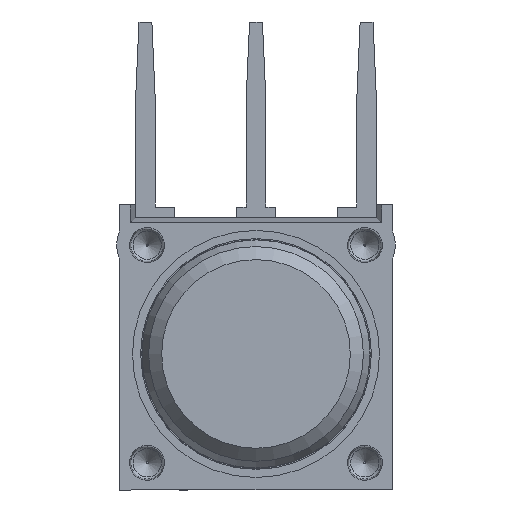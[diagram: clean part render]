
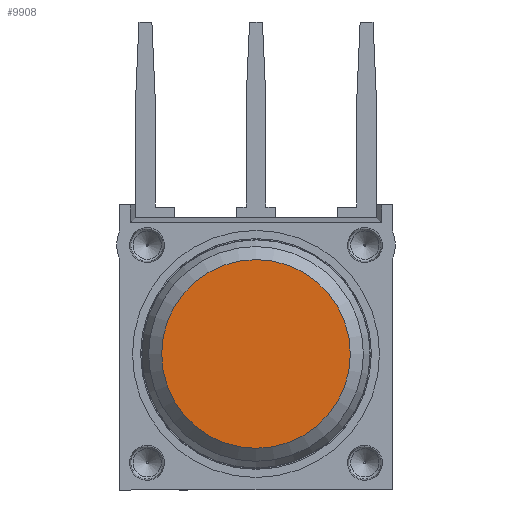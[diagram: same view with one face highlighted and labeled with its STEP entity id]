
A CAD part, left-side view. The second image highlights one B-rep face of the part: STEP entity #9908.
In plain terms, the highlighted planar face has unit normal (-1, 0, 0).
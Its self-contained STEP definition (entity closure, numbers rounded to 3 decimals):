
#4324=ORIENTED_EDGE('',*,*,#6034,.T.);
#6034=EDGE_CURVE('',#7090,#7090,#7551,.T.);
#7090=VERTEX_POINT('',#17411);
#7551=CIRCLE('',#11279,4.334);
#8216=EDGE_LOOP('',(#4324));
#8939=FACE_BOUND('',#8216,.T.);
#9375=PLANE('',#11280);
#9908=ADVANCED_FACE('',(#8939),#9375,.T.);
#11279=AXIS2_PLACEMENT_3D('',#17410,#13721,#13722);
#11280=AXIS2_PLACEMENT_3D('',#17412,#13723,#13724);
#13721=DIRECTION('',(-1.,0.,0.));
#13722=DIRECTION('',(0.,0.172,0.985));
#13723=DIRECTION('',(-1.,0.,0.));
#13724=DIRECTION('',(0.,0.172,0.985));
#17410=CARTESIAN_POINT('',(-14.954,0.,0.));
#17411=CARTESIAN_POINT('',(-14.954,0.746,4.269));
#17412=CARTESIAN_POINT('',(-14.954,0.,0.));
